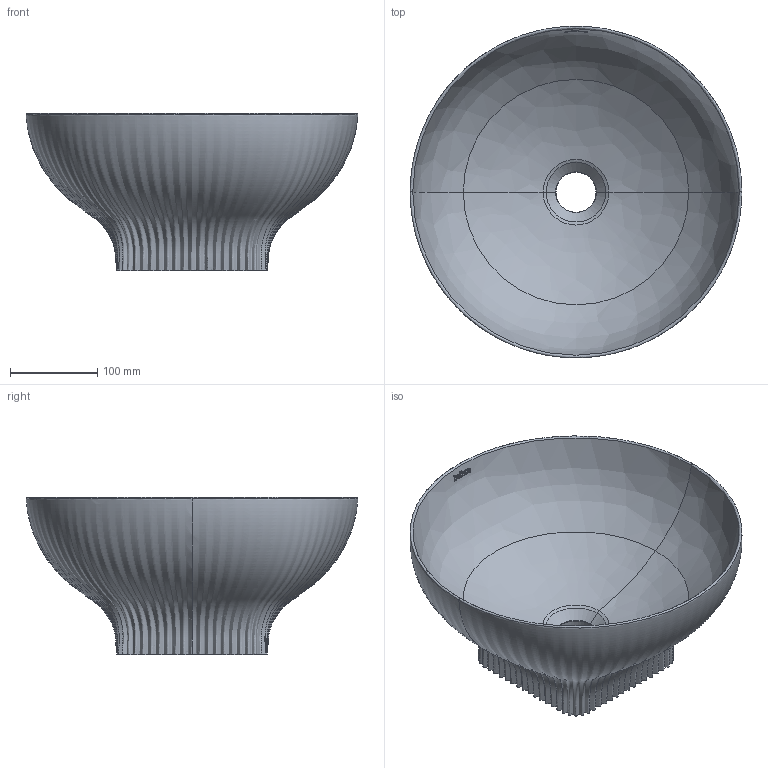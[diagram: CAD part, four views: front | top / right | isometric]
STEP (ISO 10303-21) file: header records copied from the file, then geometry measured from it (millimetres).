
FILE_DESCRIPTION(/* description */ (''),/* implementation_level */ '2;1');
FILE_NAME(/* name */ '6053_Cervino_Circular',/* time_stamp */ '2024-10-15T14:49:50+02:00',/* author */ (''),/* organization */ (''),/* preprocessor_version */ 'ST-DEVELOPER v19.2',/* originating_system */ 'Rhino 8.11',/* authorisation */ '');
FILE_SCHEMA (('CONFIG_CONTROL_DESIGN'));
Products named in the file (1): Document
Bounding box: 380 x 379.81 x 180 mm (x, y, z)
Volume: 2536821.7 mm3; surface area: 433393.8 mm2
Topology: 7 solids, 7 shells, 126 faces, 308 edges, 195 vertices
Faces by surface type: bspline 85, plane 39, cylinder 2
Entity records: 482634 total; most frequent: CARTESIAN_POINT 480391, ORIENTED_EDGE 616, EDGE_CURVE 308, B_SPLINE_CURVE_WITH_KNOTS 212, VERTEX_POINT 195, DIRECTION 145, EDGE_LOOP 133, ADVANCED_FACE 126
